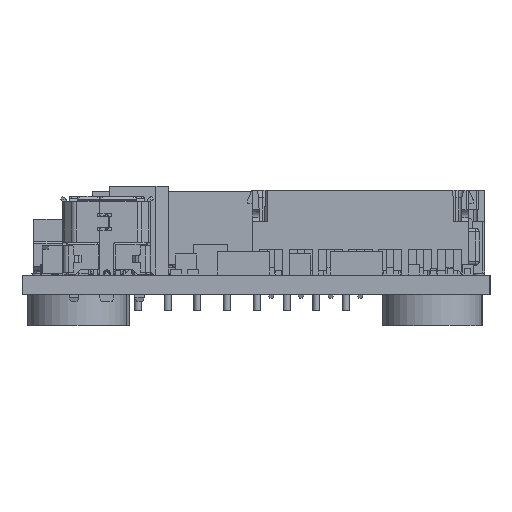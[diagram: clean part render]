
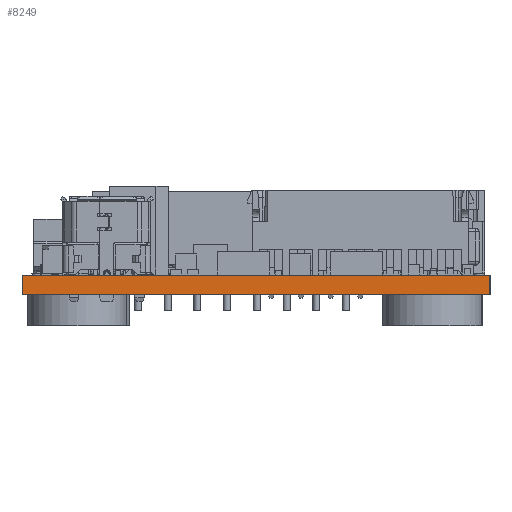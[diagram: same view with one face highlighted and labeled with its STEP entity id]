
A CAD part, left-side view. The second image highlights one B-rep face of the part: STEP entity #8249.
In plain terms, the highlighted planar face has unit normal (-1, 0, 0).
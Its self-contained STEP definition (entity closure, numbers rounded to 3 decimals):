
#589=FACE_OUTER_BOUND('',#55105,.T.);
#8249=ADVANCED_FACE('',(#589),#15172,.T.);
#15172=PLANE('',#131150);
#23203=LINE('',#175961,#38500);
#23714=LINE('',#177216,#39011);
#23715=LINE('',#177218,#39012);
#23716=LINE('',#177220,#39013);
#38500=VECTOR('',#140454,1.);
#39011=VECTOR('',#141053,1.);
#39012=VECTOR('',#141054,1.);
#39013=VECTOR('',#141055,1.);
#55105=EDGE_LOOP('',(#64223,#64224,#64225,#64226));
#64223=ORIENTED_EDGE('',*,*,#113048,.T.);
#64224=ORIENTED_EDGE('',*,*,#112485,.T.);
#64225=ORIENTED_EDGE('',*,*,#113049,.F.);
#64226=ORIENTED_EDGE('',*,*,#113050,.F.);
#100381=VERTEX_POINT('',#175956);
#100383=VERTEX_POINT('',#175960);
#100935=VERTEX_POINT('',#177217);
#100936=VERTEX_POINT('',#177219);
#112485=EDGE_CURVE('',#100381,#100383,#23203,.T.);
#113048=EDGE_CURVE('',#100935,#100381,#23714,.T.);
#113049=EDGE_CURVE('',#100936,#100383,#23715,.T.);
#113050=EDGE_CURVE('',#100935,#100936,#23716,.T.);
#131150=AXIS2_PLACEMENT_3D('',#177221,#141056,#141057);
#140454=DIRECTION('',(0.,1.,0.));
#141053=DIRECTION('',(0.,0.,1.));
#141054=DIRECTION('',(0.,0.,1.));
#141055=DIRECTION('',(0.,1.,0.));
#141056=DIRECTION('',(-1.,0.,0.));
#141057=DIRECTION('',(0.,-1.,0.));
#175956=CARTESIAN_POINT('',(0.,0.,0.));
#175960=CARTESIAN_POINT('',(0.,40.,0.));
#175961=CARTESIAN_POINT('',(0.,0.,0.));
#177216=CARTESIAN_POINT('',(0.,0.,-1.662));
#177217=CARTESIAN_POINT('',(0.,0.,-1.662));
#177218=CARTESIAN_POINT('',(0.,40.,-1.662));
#177219=CARTESIAN_POINT('',(0.,40.,-1.662));
#177220=CARTESIAN_POINT('',(0.,0.,-1.662));
#177221=CARTESIAN_POINT('',(0.,0.,-1.662));
